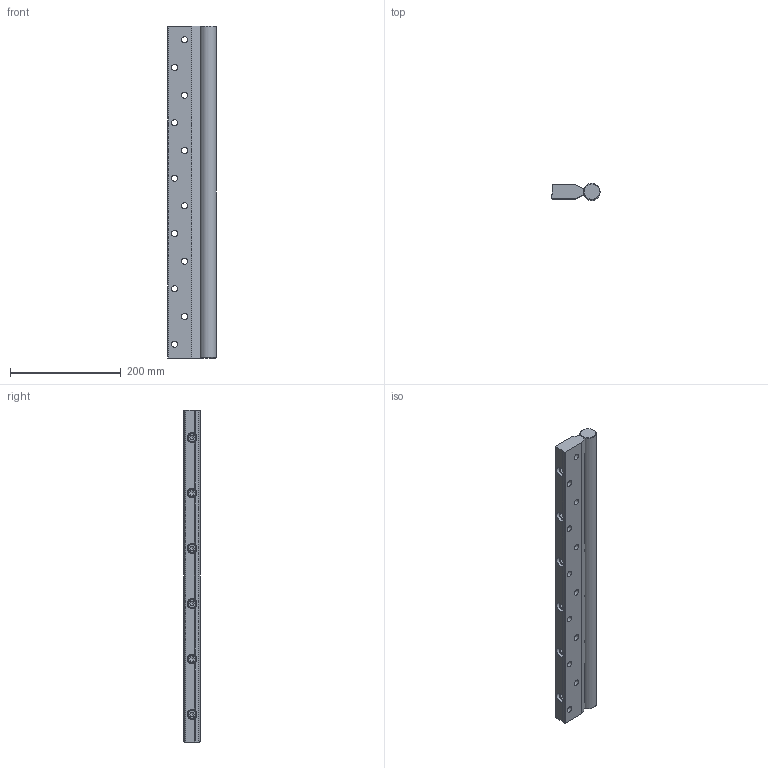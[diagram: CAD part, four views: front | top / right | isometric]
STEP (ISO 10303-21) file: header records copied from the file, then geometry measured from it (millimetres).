
FILE_DESCRIPTION(('STEP AP203'),'1');
FILE_NAME('SGY30-600.stp','2022-07-07T04:53:26',(' '),(' '),'Spatial InterOp 3D',' ',' ');
FILE_SCHEMA(('CONFIG_CONTROL_DESIGN'));
Length unit declared in the file: millimetre
Products named in the file (4): SGY30-600; M10-60; OP30-600_SRY; SRY-30
Assembly tree (8 placements, depth 2):
  SGY30-600
    M10-60  x6
    OP30-600_SRY
    SRY-30
Bounding box: 87 x 30 x 600 mm (x, y, z)
Volume: 1146341.8 mm3; surface area: 197347.9 mm2
Topology: 8 solids, 8 shells, 222 faces, 508 edges, 314 vertices
Faces by surface type: plane 140, cylinder 56, cone 26
Full cylindrical faces by diameter (mm): 8.5 x6, 10 x6, 11 x18, 16 x6, 18 x18, 30 x1
Entity records: 4031 total; most frequent: CARTESIAN_POINT 921, DIRECTION 611, ORIENTED_EDGE 446, AXIS2_PLACEMENT_3D 263, EDGE_CURVE 223, EDGE_LOOP 221, VERTEX_POINT 177, FACE_OUTER_BOUND 167
